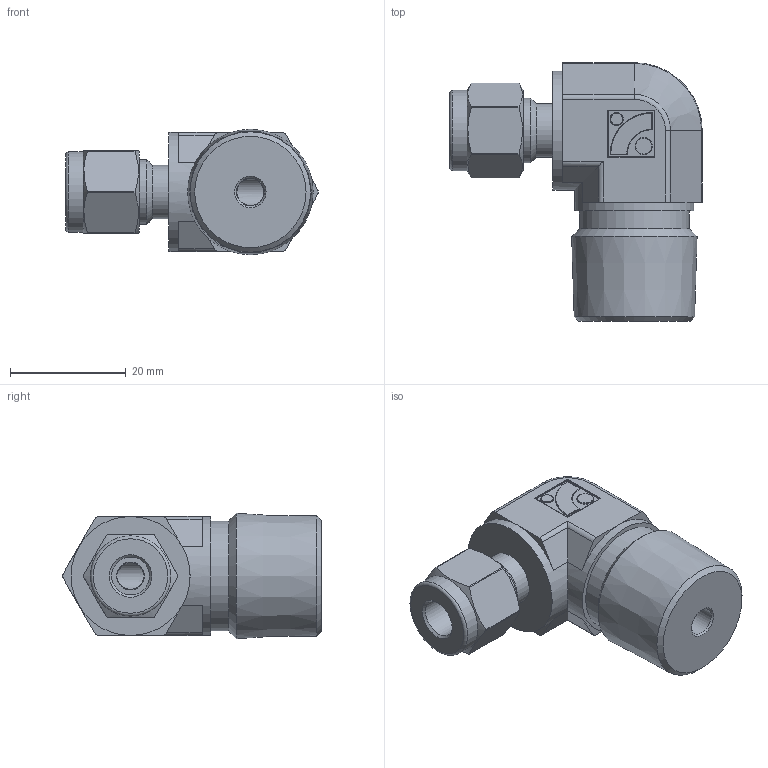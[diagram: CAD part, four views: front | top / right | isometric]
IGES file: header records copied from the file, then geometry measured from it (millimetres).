
Global section: file name: No Iges File Name specified; native system: Autodesk Inventor 2012; preprocessor: AutoDesk Inventor Iges Exporter R2012; author: 硅己绕,,1; organization: 1; date: 20150703.113959; units: millimetre
Bounding box: 43.68 x 44.74 x 21.71 mm (x, y, z)
Volume: 17411.1 mm3; surface area: 5874.1 mm2
Topology: 1 solids, 1 shells, 119 faces, 268 edges, 157 vertices
Faces by surface type: plane 43, cylinder 35, revolution 21, torus 8, cone 8, sphere 4
Full cylindrical faces by diameter (mm): 2.16 x1, 2.88 x1, 9.3 x1, 11.112 x1, 13.9 x1, 19 x1, 20.6 x2
